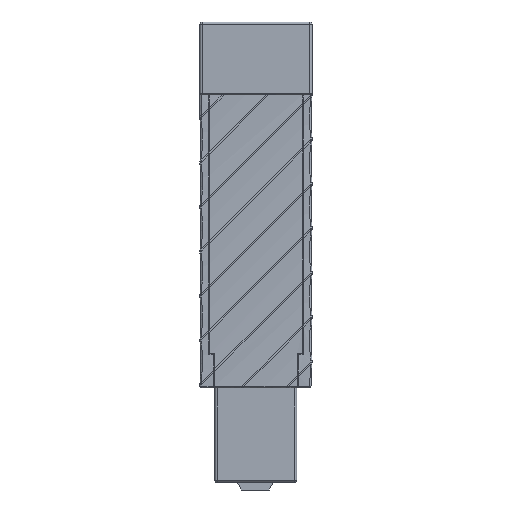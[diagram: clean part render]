
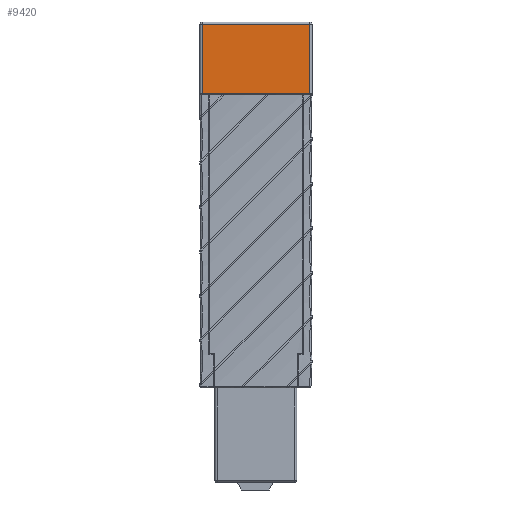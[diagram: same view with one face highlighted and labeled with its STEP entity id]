
A CAD part, front view. The second image highlights one B-rep face of the part: STEP entity #9420.
In plain terms, the highlighted planar face has unit normal (0, -1, 0).
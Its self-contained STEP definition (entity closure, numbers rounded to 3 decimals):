
#66 = ORIENTED_EDGE ( 'NONE', *, *, #7624, .T. ) ;
#205 = CARTESIAN_POINT ( 'NONE',  ( -7.954, -6.511, 51.523 ) ) ;
#1137 = CARTESIAN_POINT ( 'NONE',  ( 7.704, -6.511, 47.95 ) ) ;
#1704 = ORIENTED_EDGE ( 'NONE', *, *, #13324, .T. ) ;
#1910 = LINE ( 'NONE', #3305, #4387 ) ;
#3167 = EDGE_CURVE ( 'NONE', #6419, #3911, #10198, .T. ) ;
#3264 = EDGE_LOOP ( 'NONE', ( #6122, #12960, #66, #1704 ) ) ;
#3305 = CARTESIAN_POINT ( 'NONE',  ( -7.654, -6.511, 47.95 ) ) ;
#3911 = VERTEX_POINT ( 'NONE', #5909 ) ;
#4118 = DIRECTION ( 'NONE',  ( 0., 0., -1. ) ) ;
#4356 = DIRECTION ( 'NONE',  ( 0., 0., -1. ) ) ;
#4362 = VERTEX_POINT ( 'NONE', #7496 ) ;
#4387 = VECTOR ( 'NONE', #4356, 1000. ) ;
#5255 = VERTEX_POINT ( 'NONE', #8675 ) ;
#5383 = DIRECTION ( 'NONE',  ( 0., 0., 1. ) ) ;
#5529 = LINE ( 'NONE', #1137, #8325 ) ;
#5909 = CARTESIAN_POINT ( 'NONE',  ( 7.704, -6.511, 41.65 ) ) ;
#6122 = ORIENTED_EDGE ( 'NONE', *, *, #6161, .T. ) ;
#6161 = EDGE_CURVE ( 'NONE', #5255, #6419, #1910, .T. ) ;
#6419 = VERTEX_POINT ( 'NONE', #7506 ) ;
#7496 = CARTESIAN_POINT ( 'NONE',  ( 7.704, -6.511, 51.523 ) ) ;
#7506 = CARTESIAN_POINT ( 'NONE',  ( -7.654, -6.511, 41.65 ) ) ;
#7624 = EDGE_CURVE ( 'NONE', #3911, #4362, #5529, .T. ) ;
#8325 = VECTOR ( 'NONE', #5383, 1000. ) ;
#8333 = PLANE ( 'NONE',  #11340 ) ;
#8675 = CARTESIAN_POINT ( 'NONE',  ( -7.654, -6.511, 51.523 ) ) ;
#8902 = FACE_OUTER_BOUND ( 'NONE', #3264, .T. ) ;
#8908 = CARTESIAN_POINT ( 'NONE',  ( -7.954, -6.511, 41.65 ) ) ;
#9373 = CARTESIAN_POINT ( 'NONE',  ( -7.954, -6.511, 47.95 ) ) ;
#9420 = ADVANCED_FACE ( 'NONE', ( #8902 ), #8333, .F. ) ;
#9878 = VECTOR ( 'NONE', #9947, 1000. ) ;
#9947 = DIRECTION ( 'NONE',  ( 1., 0., 0. ) ) ;
#10198 = LINE ( 'NONE', #8908, #9878 ) ;
#10406 = DIRECTION ( 'NONE',  ( 0., 1., 0. ) ) ;
#11337 = VECTOR ( 'NONE', #12784, 1000. ) ;
#11340 = AXIS2_PLACEMENT_3D ( 'NONE', #9373, #10406, #4118 ) ;
#11656 = LINE ( 'NONE', #205, #11337 ) ;
#12784 = DIRECTION ( 'NONE',  ( -1., 0., 0. ) ) ;
#12960 = ORIENTED_EDGE ( 'NONE', *, *, #3167, .T. ) ;
#13324 = EDGE_CURVE ( 'NONE', #4362, #5255, #11656, .T. ) ;
